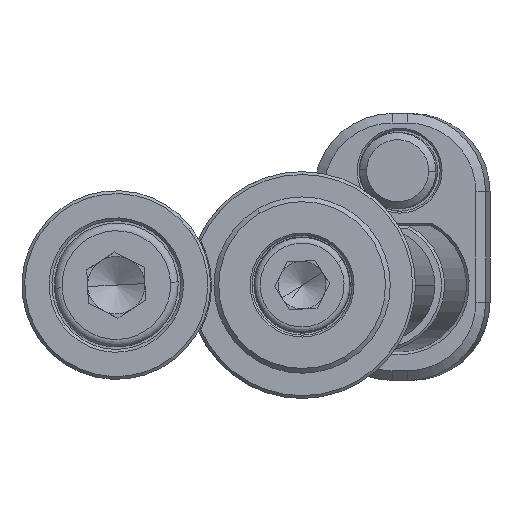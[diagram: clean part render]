
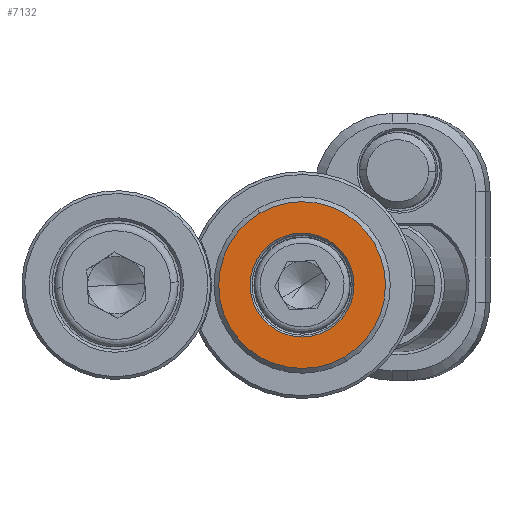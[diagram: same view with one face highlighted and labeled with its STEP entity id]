
A CAD part, front view. The second image highlights one B-rep face of the part: STEP entity #7132.
In plain terms, the highlighted planar face has unit normal (0, -1, 0).
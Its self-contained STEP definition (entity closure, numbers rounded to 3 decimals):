
#394 = EDGE_CURVE ( 'NONE', #8845, #11045, #3447, .T. ) ;
#462 = EDGE_LOOP ( 'NONE', ( #5958, #492 ) ) ;
#492 = ORIENTED_EDGE ( 'NONE', *, *, #13772, .T. ) ;
#1078 = CARTESIAN_POINT ( 'NONE',  ( 0., -4., 0. ) ) ;
#1102 = FACE_BOUND ( 'NONE', #6895, .T. ) ;
#1168 = CARTESIAN_POINT ( 'NONE',  ( 0., -4., 0. ) ) ;
#2210 = FACE_OUTER_BOUND ( 'NONE', #462, .T. ) ;
#2354 = ORIENTED_EDGE ( 'NONE', *, *, #394, .T. ) ;
#2515 = ORIENTED_EDGE ( 'NONE', *, *, #13833, .T. ) ;
#2618 = DIRECTION ( 'NONE',  ( -0.505, 0., 0.863 ) ) ;
#3447 = CIRCLE ( 'NONE', #11064, 5.45 ) ;
#3893 = CIRCLE ( 'NONE', #11976, 8.75 ) ;
#4031 = EDGE_CURVE ( 'NONE', #10251, #4347, #7900, .T. ) ;
#4347 = VERTEX_POINT ( 'NONE', #9982 ) ;
#4739 = DIRECTION ( 'NONE',  ( 0., 1., 0. ) ) ;
#4762 = DIRECTION ( 'NONE',  ( -0.505, 0., 0.863 ) ) ;
#5522 = DIRECTION ( 'NONE',  ( 0., -1., 0. ) ) ;
#5909 = DIRECTION ( 'NONE',  ( -0.505, 0., 0.863 ) ) ;
#5958 = ORIENTED_EDGE ( 'NONE', *, *, #4031, .T. ) ;
#6538 = CARTESIAN_POINT ( 'NONE',  ( -4.42, -4., 7.552 ) ) ;
#6746 = AXIS2_PLACEMENT_3D ( 'NONE', #1078, #5522, #9934 ) ;
#6895 = EDGE_LOOP ( 'NONE', ( #2515, #2354 ) ) ;
#6902 = DIRECTION ( 'NONE',  ( -0.505, 0., 0.863 ) ) ;
#7132 = ADVANCED_FACE ( 'NONE', ( #1102, #2210 ), #10100, .F. ) ;
#7170 = AXIS2_PLACEMENT_3D ( 'NONE', #1168, #7922, #6902 ) ;
#7900 = CIRCLE ( 'NONE', #6746, 8.75 ) ;
#7922 = DIRECTION ( 'NONE',  ( 0., 1., 0. ) ) ;
#7936 = CARTESIAN_POINT ( 'NONE',  ( -4.531, -4., -2.652 ) ) ;
#8612 = CARTESIAN_POINT ( 'NONE',  ( 2.753, -4., -4.704 ) ) ;
#8845 = VERTEX_POINT ( 'NONE', #10795 ) ;
#9210 = CARTESIAN_POINT ( 'NONE',  ( 0., -4., 0. ) ) ;
#9476 = CIRCLE ( 'NONE', #7170, 5.45 ) ;
#9934 = DIRECTION ( 'NONE',  ( -0.505, 0., 0.863 ) ) ;
#9982 = CARTESIAN_POINT ( 'NONE',  ( 4.42, -4., -7.552 ) ) ;
#10100 = PLANE ( 'NONE',  #13416 ) ;
#10251 = VERTEX_POINT ( 'NONE', #6538 ) ;
#10329 = DIRECTION ( 'NONE',  ( 0., -1., 0. ) ) ;
#10795 = CARTESIAN_POINT ( 'NONE',  ( -2.753, -4., 4.704 ) ) ;
#11045 = VERTEX_POINT ( 'NONE', #8612 ) ;
#11064 = AXIS2_PLACEMENT_3D ( 'NONE', #11211, #11153, #4762 ) ;
#11153 = DIRECTION ( 'NONE',  ( 0., 1., 0. ) ) ;
#11211 = CARTESIAN_POINT ( 'NONE',  ( 0., -4., 0. ) ) ;
#11976 = AXIS2_PLACEMENT_3D ( 'NONE', #9210, #10329, #2618 ) ;
#13416 = AXIS2_PLACEMENT_3D ( 'NONE', #7936, #4739, #5909 ) ;
#13772 = EDGE_CURVE ( 'NONE', #4347, #10251, #3893, .T. ) ;
#13833 = EDGE_CURVE ( 'NONE', #11045, #8845, #9476, .T. ) ;
